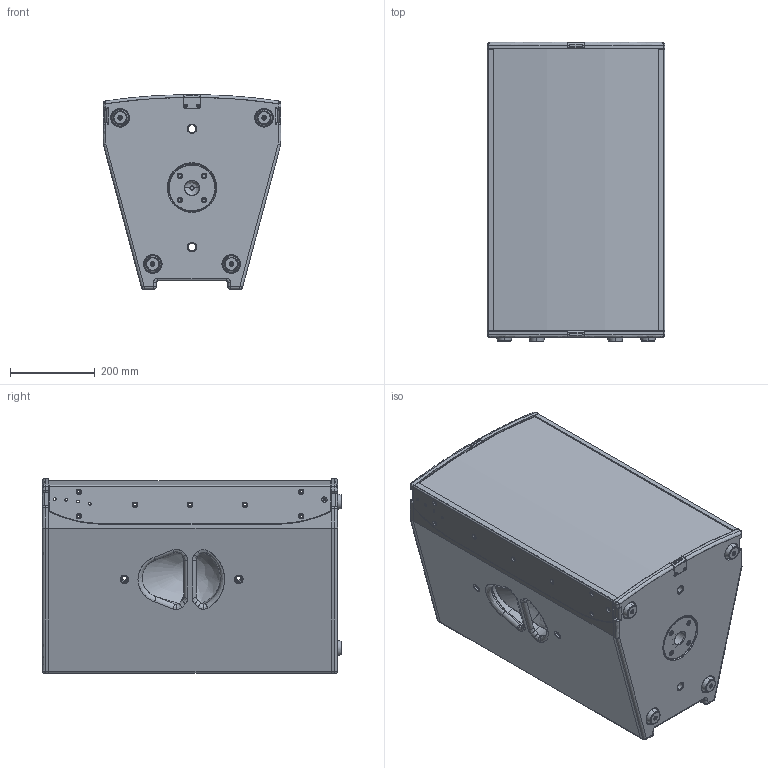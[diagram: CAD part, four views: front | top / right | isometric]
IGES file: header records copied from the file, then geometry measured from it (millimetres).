
Start section: SolidWorks IGES file using analytic representation for surfaces
Global section: file name: C:\Dokumente und Einstellungen\PC_Fabian\Desktop\SW-Konstruktionen Michl2010\K24-Nico_Serie\K24(Serienproduktion)\Internet\SEEBURG_K24.IGS; native system: SolidWorks 2009; preprocessor: SolidWorks 2009; author: PC_Fabian; date: 120926.133212; units: millimetre
Bounding box: 420 x 707.5 x 460.69 mm (x, y, z)
Surface area: 3503185.6 mm2 (no closed solid volume)
Topology: 0 solids, 0 shells, 875 faces, 15651 edges, 15641 vertices
Faces by surface type: revolution 486, bspline 389
